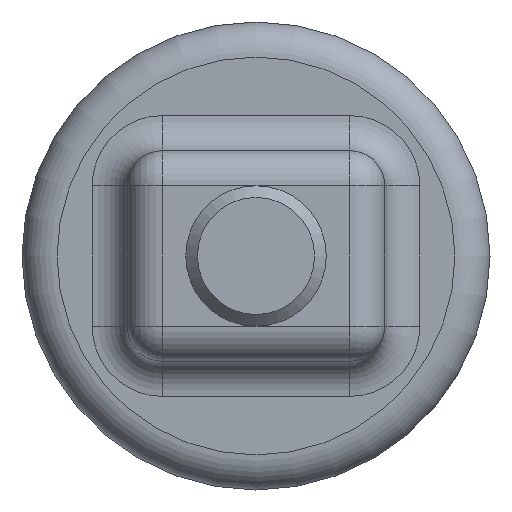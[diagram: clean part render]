
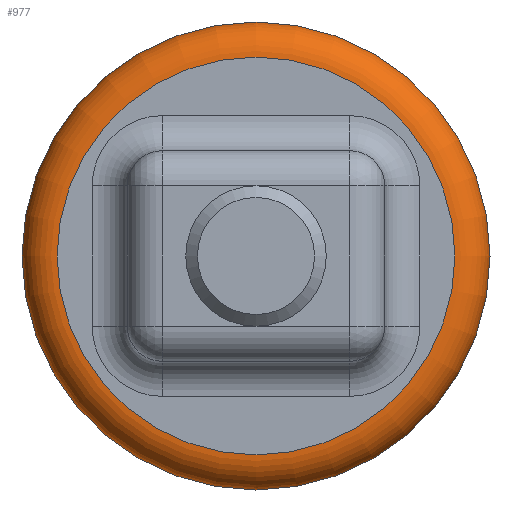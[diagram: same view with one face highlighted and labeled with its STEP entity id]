
A CAD part, left-side view. The second image highlights one B-rep face of the part: STEP entity #977.
In plain terms, the highlighted toroidal (fillet/blend) face has major radius 17 mm and minor radius 3 mm.
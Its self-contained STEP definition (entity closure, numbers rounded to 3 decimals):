
#18 = DIRECTION ( 'NONE',  ( 0., 0., -1. ) ) ;
#66 = AXIS2_PLACEMENT_3D ( 'NONE', #891, #186, #1010 ) ;
#96 = AXIS2_PLACEMENT_3D ( 'NONE', #1309, #248, #18 ) ;
#186 = DIRECTION ( 'NONE',  ( 1., 0., 0. ) ) ;
#234 = FACE_OUTER_BOUND ( 'NONE', #1228, .T. ) ;
#248 = DIRECTION ( 'NONE',  ( 1., 0., 0. ) ) ;
#277 = EDGE_CURVE ( 'NONE', #1188, #1188, #1296, .T. ) ;
#487 = DIRECTION ( 'NONE',  ( -1., 0., 0. ) ) ;
#512 = EDGE_LOOP ( 'NONE', ( #1380 ) ) ;
#557 = FACE_OUTER_BOUND ( 'NONE', #512, .T. ) ;
#572 = VERTEX_POINT ( 'NONE', #808 ) ;
#680 = CARTESIAN_POINT ( 'NONE',  ( 58., 0., -17. ) ) ;
#808 = CARTESIAN_POINT ( 'NONE',  ( 61., 0., -20. ) ) ;
#841 = CIRCLE ( 'NONE', #66, 20. ) ;
#891 = CARTESIAN_POINT ( 'NONE',  ( 61., 0., 0. ) ) ;
#924 = AXIS2_PLACEMENT_3D ( 'NONE', #1189, #487, #1307 ) ;
#977 = ADVANCED_FACE ( 'NONE', ( #234, #557 ), #1175, .T. ) ;
#1010 = DIRECTION ( 'NONE',  ( 0., 0., -1. ) ) ;
#1169 = EDGE_CURVE ( 'NONE', #572, #572, #841, .T. ) ;
#1175 = TOROIDAL_SURFACE ( 'NONE', #96, 17., 3. ) ;
#1188 = VERTEX_POINT ( 'NONE', #680 ) ;
#1189 = CARTESIAN_POINT ( 'NONE',  ( 58., 0., 0. ) ) ;
#1228 = EDGE_LOOP ( 'NONE', ( #1395 ) ) ;
#1296 = CIRCLE ( 'NONE', #924, 17. ) ;
#1307 = DIRECTION ( 'NONE',  ( 0., 0., -1. ) ) ;
#1309 = CARTESIAN_POINT ( 'NONE',  ( 61., 0., 0. ) ) ;
#1380 = ORIENTED_EDGE ( 'NONE', *, *, #277, .F. ) ;
#1395 = ORIENTED_EDGE ( 'NONE', *, *, #1169, .F. ) ;
